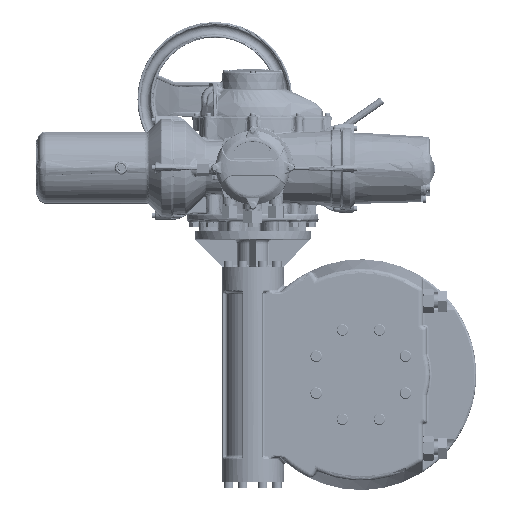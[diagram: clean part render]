
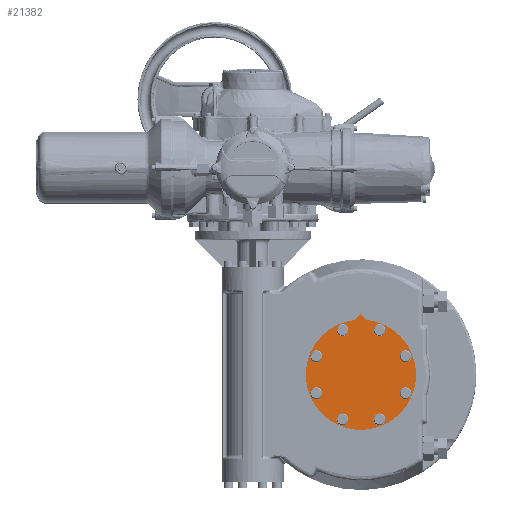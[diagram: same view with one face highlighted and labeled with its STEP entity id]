
A CAD part, front view. The second image highlights one B-rep face of the part: STEP entity #21382.
In plain terms, the highlighted planar face has unit normal (0, -1, 0).
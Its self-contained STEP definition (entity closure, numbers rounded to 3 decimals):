
#21382 = ADVANCED_FACE( '', ( #45502, #45503, #45504, #45505, #45506, #45507, #45508, #45509, #45510 ), #45511, .F. );
#45502 = FACE_BOUND( '', #339348, .T. );
#45503 = FACE_BOUND( '', #339349, .T. );
#45504 = FACE_BOUND( '', #339350, .T. );
#45505 = FACE_BOUND( '', #339351, .T. );
#45506 = FACE_OUTER_BOUND( '', #339352, .T. );
#45507 = FACE_BOUND( '', #339353, .T. );
#45508 = FACE_BOUND( '', #339354, .T. );
#45509 = FACE_BOUND( '', #339355, .T. );
#45510 = FACE_BOUND( '', #339356, .T. );
#45511 = PLANE( '', #339357 );
#339348 = EDGE_LOOP( '', ( #500086 ) );
#339349 = EDGE_LOOP( '', ( #500087 ) );
#339350 = EDGE_LOOP( '', ( #500088 ) );
#339351 = EDGE_LOOP( '', ( #500089 ) );
#339352 = EDGE_LOOP( '', ( #500090, #500091, #500092 ) );
#339353 = EDGE_LOOP( '', ( #500093 ) );
#339354 = EDGE_LOOP( '', ( #500094 ) );
#339355 = EDGE_LOOP( '', ( #500095 ) );
#339356 = EDGE_LOOP( '', ( #500096 ) );
#339357 = AXIS2_PLACEMENT_3D( '', #500097, #500098, #500099 );
#500086 = ORIENTED_EDGE( '', *, *, #541178, .F. );
#500087 = ORIENTED_EDGE( '', *, *, #532153, .F. );
#500088 = ORIENTED_EDGE( '', *, *, #530992, .F. );
#500089 = ORIENTED_EDGE( '', *, *, #541365, .F. );
#500090 = ORIENTED_EDGE( '', *, *, #541366, .F. );
#500091 = ORIENTED_EDGE( '', *, *, #538893, .F. );
#500092 = ORIENTED_EDGE( '', *, *, #537378, .F. );
#500093 = ORIENTED_EDGE( '', *, *, #535632, .F. );
#500094 = ORIENTED_EDGE( '', *, *, #541367, .F. );
#500095 = ORIENTED_EDGE( '', *, *, #541368, .F. );
#500096 = ORIENTED_EDGE( '', *, *, #535118, .F. );
#500097 = CARTESIAN_POINT( '', ( 279.45, -78., -535. ) );
#500098 = DIRECTION( '', ( 0., 1., 0. ) );
#500099 = DIRECTION( '', ( 0., 0., 1. ) );
#530992 = EDGE_CURVE( '', #567900, #567900, #567901, .T. );
#532153 = EDGE_CURVE( '', #569503, #569503, #569504, .T. );
#535118 = EDGE_CURVE( '', #573445, #573445, #573446, .T. );
#535632 = EDGE_CURVE( '', #574107, #574107, #574108, .T. );
#537378 = EDGE_CURVE( '', #576324, #576326, #576327, .T. );
#538893 = EDGE_CURVE( '', #576326, #578148, #578149, .T. );
#541178 = EDGE_CURVE( '', #580758, #580758, #580759, .T. );
#541365 = EDGE_CURVE( '', #580964, #580964, #580965, .T. );
#541366 = EDGE_CURVE( '', #578148, #576324, #580966, .T. );
#541367 = EDGE_CURVE( '', #580967, #580967, #580968, .T. );
#541368 = EDGE_CURVE( '', #580969, #580969, #580970, .T. );
#567900 = VERTEX_POINT( '', #711557 );
#567901 = CIRCLE( '', #711558, 15.35 );
#569503 = VERTEX_POINT( '', #721574 );
#569504 = CIRCLE( '', #721575, 15.35 );
#573445 = VERTEX_POINT( '', #744319 );
#573446 = CIRCLE( '', #744320, 15.35 );
#574107 = VERTEX_POINT( '', #747742 );
#574108 = CIRCLE( '', #747743, 15.35 );
#576324 = VERTEX_POINT( '', #760450 );
#576326 = VERTEX_POINT( '', #760453 );
#576327 = LINE( '', #760454, #760455 );
#578148 = VERTEX_POINT( '', #770400 );
#578149 = CIRCLE( '', #770401, 142.5 );
#580758 = VERTEX_POINT( '', #786100 );
#580759 = CIRCLE( '', #786101, 15.35 );
#580964 = VERTEX_POINT( '', #787056 );
#580965 = CIRCLE( '', #787057, 15.35 );
#580966 = LINE( '', #787058, #787059 );
#580967 = VERTEX_POINT( '', #787060 );
#580968 = CIRCLE( '', #787061, 15.35 );
#580969 = VERTEX_POINT( '', #787062 );
#580970 = CIRCLE( '', #787063, 15.35 );
#711557 = CARTESIAN_POINT( '', ( 231.615, -78., -404.165 ) );
#711558 = AXIS2_PLACEMENT_3D( '', #814351, #814352, #814353 );
#721574 = CARTESIAN_POINT( '', ( 153.111, -78., -476.31 ) );
#721575 = AXIS2_PLACEMENT_3D( '', #815483, #815484, #815485 );
#744319 = CARTESIAN_POINT( '', ( 220.76, -78., -661.339 ) );
#744320 = AXIS2_PLACEMENT_3D( '', #818428, #818429, #818430 );
#747742 = CARTESIAN_POINT( '', ( 410.285, -78., -487.165 ) );
#747743 = AXIS2_PLACEMENT_3D( '', #818924, #818925, #818926 );
#760450 = CARTESIAN_POINT( '', ( 279.45, -78., -378. ) );
#760453 = CARTESIAN_POINT( '', ( 294.777, -78., -393.327 ) );
#760454 = CARTESIAN_POINT( '', ( 279.45, -78., -378. ) );
#760455 = VECTOR( '', #820526, 1000. );
#770400 = CARTESIAN_POINT( '', ( 264.123, -78., -393.327 ) );
#770401 = AXIS2_PLACEMENT_3D( '', #821944, #821945, #821946 );
#786100 = CARTESIAN_POINT( '', ( 405.789, -78., -593.69 ) );
#786101 = AXIS2_PLACEMENT_3D( '', #823758, #823759, #823760 );
#787056 = CARTESIAN_POINT( '', ( 327.285, -78., -665.835 ) );
#787057 = AXIS2_PLACEMENT_3D( '', #823868, #823869, #823870 );
#787058 = CARTESIAN_POINT( '', ( 279.45, -78., -378. ) );
#787059 = VECTOR( '', #823871, 1000. );
#787060 = CARTESIAN_POINT( '', ( 148.615, -78., -582.835 ) );
#787061 = AXIS2_PLACEMENT_3D( '', #823872, #823873, #823874 );
#787062 = CARTESIAN_POINT( '', ( 338.14, -78., -408.661 ) );
#787063 = AXIS2_PLACEMENT_3D( '', #823875, #823876, #823877 );
#814351 = CARTESIAN_POINT( '', ( 231.615, -78., -419.515 ) );
#814352 = DIRECTION( '', ( 0., -1., 0. ) );
#814353 = DIRECTION( '', ( 0., 0., 1. ) );
#815483 = CARTESIAN_POINT( '', ( 163.965, -78., -487.165 ) );
#815484 = DIRECTION( '', ( 0., -1., 0. ) );
#815485 = DIRECTION( '', ( -0.707, 0., 0.707 ) );
#818428 = CARTESIAN_POINT( '', ( 231.615, -78., -650.485 ) );
#818429 = DIRECTION( '', ( 0., -1., 0. ) );
#818430 = DIRECTION( '', ( -0.707, 0., -0.707 ) );
#818924 = CARTESIAN_POINT( '', ( 394.935, -78., -487.165 ) );
#818925 = DIRECTION( '', ( 0., -1., 0. ) );
#818926 = DIRECTION( '', ( 1., 0., 0. ) );
#820526 = DIRECTION( '', ( 0.707, 0., -0.707 ) );
#821944 = CARTESIAN_POINT( '', ( 279.45, -78., -535. ) );
#821945 = DIRECTION( '', ( 0., 1., 0. ) );
#821946 = DIRECTION( '', ( 0., 0., 1. ) );
#823758 = CARTESIAN_POINT( '', ( 394.935, -78., -582.835 ) );
#823759 = DIRECTION( '', ( 0., -1., 0. ) );
#823760 = DIRECTION( '', ( 0.707, 0., -0.707 ) );
#823868 = CARTESIAN_POINT( '', ( 327.285, -78., -650.485 ) );
#823869 = DIRECTION( '', ( 0., -1., 0. ) );
#823870 = DIRECTION( '', ( 0., 0., -1. ) );
#823871 = DIRECTION( '', ( 0.707, 0., 0.707 ) );
#823872 = CARTESIAN_POINT( '', ( 163.965, -78., -582.835 ) );
#823873 = DIRECTION( '', ( 0., -1., 0. ) );
#823874 = DIRECTION( '', ( -1., 0., 0. ) );
#823875 = CARTESIAN_POINT( '', ( 327.285, -78., -419.515 ) );
#823876 = DIRECTION( '', ( 0., -1., 0. ) );
#823877 = DIRECTION( '', ( 0.707, 0., 0.707 ) );
